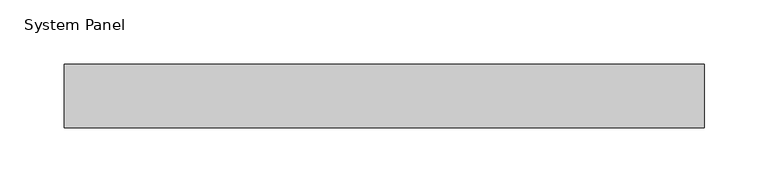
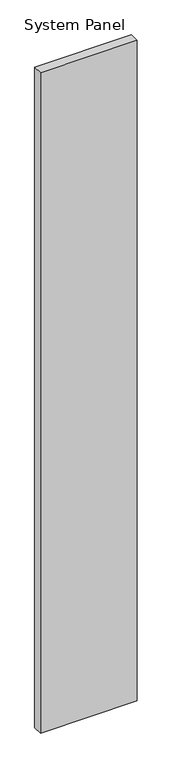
"""IFC4 building model written with IfcOpenShell, lengths in millimetres: plate geometry, System Panel : Inspire 50mm Vertical - Plain RHEA-PIR."""

from ifc_helpers import new_model, si_unit, origin, origin_with_axes, place, context, project, spatial, polyline, outline, extrude, source, transform, mapped, element, save


def system_panel_a5532c42(model_context):
    return source(origin(), model_context, "Body", "SweptSolid", [
        extrude(outline(polyline([(250.0, 0.0), (-250.0, 0.0), (-250.0, 50.0), (250.0, 50.0), (250.0, 0.0)])), origin_with_axes(), (0.0, 0.0, 1.0), 3600.0),
    ])


if __name__ == "__main__":
    model = new_model("IFC4")
    model_context = context("Model", 3, world=origin())
    ifc_project = project(units=[si_unit("LENGTHUNIT", "METRE", prefix="MILLI")], contexts=[model_context])
    site = spatial("IfcSite", under=ifc_project)
    building = spatial("IfcBuilding", under=site)
    placement = place(None, origin())
    system_panel_shape = system_panel_a5532c42(model_context)
    element("IfcPlate", 1, ObjectType="System Panel : Inspire 50mm Vertical - Plain RHEA-PIR", at=placement, inside=building, context=model_context, shape_type="MappedRepresentation", body=[
        mapped(system_panel_shape, transform((0.0, 0.0, 0.0), x_axis=(1.0, 0.0, 0.0), y_axis=(0.0, 1.0, 0.0), z_axis=(0.0, 0.0, 1.0))),
    ])
    save(model, "model.ifc")
